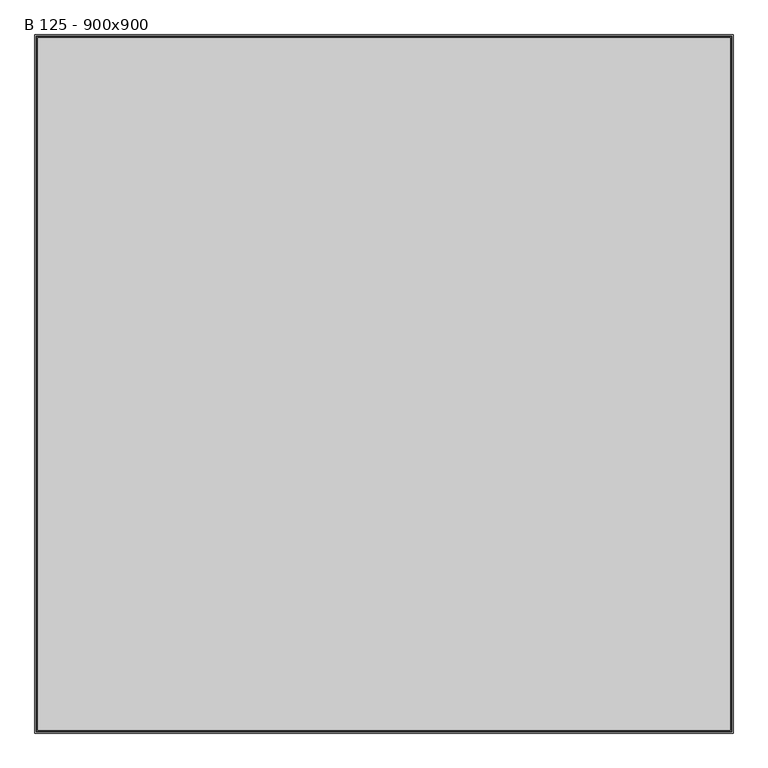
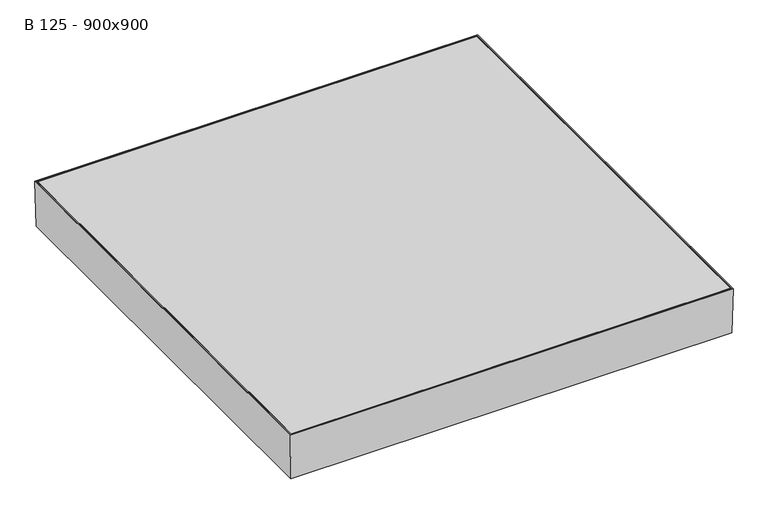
"""IFC4 building model written with IfcOpenShell, lengths in millimetres: proxy geometry, ME_ST_WPB_Access Cover UNIFACE DEEP 35 GS_ACO : B 125 - 900x900."""

import ifcopenshell
import ifcopenshell.guid

model = None  # the IFC model being written
_history = None  # IfcOwnerHistory: only IFC2X3 demands one
_inside = {}  # id of a spatial element -> (the spatial element, [elements in it])
_under = {}  # id of a project, library or spatial element -> (it, [spatial elements below it])
_declared = {}  # id of a project -> (the project, [libraries it declares])
_typed = {}  # id of a type object -> (the type object, [elements of that type])
_made_of = {}  # id of a material, layer set ... -> (it, [elements and type objects made of it])


def new_model(schema):
    """Start an empty IFC model of exactly this schema.

    Asked for "IFC4X3", IfcOpenShell would pick the latest addendum, in which some entities
    have other attributes; the version numbers below select the first issue.
    IFC2X3 requires an IfcOwnerHistory on every rooted entity: one is made here for all.
    """
    global model, _history
    if schema == "IFC4X3":
        model = ifcopenshell.file(schema_version=(4, 3, 0, 0))
    else:
        model = ifcopenshell.file(schema=schema)
    _inside.clear()
    _under.clear()
    _declared.clear()
    _typed.clear()
    _made_of.clear()
    _history = None
    if model.schema == "IFC2X3":
        org = make("IfcOrganization", Name="unknown")
        user = make(
            "IfcPersonAndOrganization",
            ThePerson=make("IfcPerson", FamilyName="unknown"),
            TheOrganization=org,
        )
        app = make(
            "IfcApplication",
            ApplicationDeveloper=org,
            Version="unknown",
            ApplicationFullName="unknown",
            ApplicationIdentifier="unknown",
        )
        _history = make(
            "IfcOwnerHistory",
            OwningUser=user,
            OwningApplication=app,
            ChangeAction="ADDED",
            CreationDate=0,
        )
    return model


def make(cls, **values):
    """One entity of the class cls with the attributes given. An attribute that is None is left unset."""
    return model.create_entity(
        cls, **{name: value for name, value in values.items() if value is not None}
    )


def rooted(cls, **values):
    """An entity with a GlobalId (a new one), such as an element, a storey or a relation."""
    return make(cls, GlobalId=ifcopenshell.guid.new(), OwnerHistory=_history, **values)


def si_unit(unit_type, name, prefix=None):
    """IfcSIUnit, for example si_unit("LENGTHUNIT", "METRE", prefix="MILLI")."""
    return make("IfcSIUnit", UnitType=unit_type, Prefix=prefix, Name=name)


def assignment(units):
    """IfcUnitAssignment: the units of a project."""
    return None if units is None else make("IfcUnitAssignment", Units=units)


def point(xyz):
    """IfcCartesianPoint."""
    return None if xyz is None else make("IfcCartesianPoint", Coordinates=xyz)


def direction(xyz):
    """IfcDirection."""
    return None if xyz is None else make("IfcDirection", DirectionRatios=xyz)


def frame(location, z_axis=None, x_axis=None):
    """IfcAxis2Placement3D, a coordinate frame: its origin and axes. An axis left out is left unset."""
    return make(
        "IfcAxis2Placement3D",
        Location=point(location),
        Axis=direction(z_axis),
        RefDirection=direction(x_axis),
    )


def origin():
    """The frame at (0, 0, 0) with its axes left unset."""
    return frame((0.0, 0.0, 0.0))


def place(relative_to, where):
    """IfcLocalPlacement: puts the frame where relative to a parent placement (None: the world)."""
    return make(
        "IfcLocalPlacement", PlacementRelTo=relative_to, RelativePlacement=where
    )


def context(
    kind, dimensions, precision=None, world=None, true_north=None, identifier=None
):
    """IfcGeometricRepresentationContext, for example the 3D "Model" context."""
    return make(
        "IfcGeometricRepresentationContext",
        ContextIdentifier=identifier,
        ContextType=kind,
        CoordinateSpaceDimension=dimensions,
        Precision=precision,
        WorldCoordinateSystem=world,
        TrueNorth=true_north,
    )


def project(units=None, contexts=None):
    """IfcProject with its units and contexts."""
    return rooted(
        "IfcProject",
        Name="project",
        RepresentationContexts=contexts,
        UnitsInContext=assignment(units),
    )


def spatial(cls, under=None, at=None, **own):
    """A site, building, storey or space (cls), placed at a placement, below another one or the project."""
    s = rooted(cls, ObjectPlacement=at, **own)
    if under is not None:
        _under.setdefault(under.id(), (under, []))[1].append(s)
    return s


def polyline(points):
    """IfcPolyline through the points."""
    return make("IfcPolyline", Points=[point(p) for p in points])


def outline(outer, holes=None, kind="AREA"):
    """IfcArbitraryClosedProfileDef: a profile drawn as a closed curve; with holes, ...WithVoids."""
    if holes is None:
        return make("IfcArbitraryClosedProfileDef", ProfileType=kind, OuterCurve=outer)
    return make(
        "IfcArbitraryProfileDefWithVoids",
        ProfileType=kind,
        OuterCurve=outer,
        InnerCurves=holes,
    )


def extrude(swept, where, along, depth):
    """IfcExtrudedAreaSolid: the profile swept, set in the frame where, extruded along a direction by depth."""
    return make(
        "IfcExtrudedAreaSolid",
        SweptArea=swept,
        Position=where,
        ExtrudedDirection=direction(along),
        Depth=depth,
    )


def faces_of(points, faces, orient=None, outer=None):
    """IfcFace entities. A face is a list of loops; a loop is a list of indices into points, from 0.

    orient and outer hold one flag for each loop. By default every Orientation is true, the
    first loop of a face is its IfcFaceOuterBound and the others are IfcFaceBound.
    """
    made = []
    for i, loops in enumerate(faces):
        bounds = []
        for j, loop in enumerate(loops):
            is_outer = j == 0 if outer is None else outer[i][j]
            bounds.append(
                make(
                    "IfcFaceOuterBound" if is_outer else "IfcFaceBound",
                    Bound=make("IfcPolyLoop", Polygon=[points[k] for k in loop]),
                    Orientation=True if orient is None else orient[i][j],
                )
            )
        made.append(make("IfcFace", Bounds=bounds))
    return made


def faceted_brep(points, faces, orient=None, outer=None, voids=None):
    """IfcFacetedBrep: a solid bounded by flat faces; with voids (closed shells), ...WithVoids."""
    shared = [point(p) for p in points]
    hull = make("IfcClosedShell", CfsFaces=faces_of(shared, faces, orient, outer))
    if voids is None:
        return make("IfcFacetedBrep", Outer=hull)
    return make(
        "IfcFacetedBrepWithVoids",
        Outer=hull,
        Voids=[
            make(cls, CfsFaces=faces_of(shared, fs, o, b)) for cls, fs, o, b in voids
        ],
    )


def shape(context_of_items, identifier, shape_type, items):
    """IfcShapeRepresentation: the items that make up one representation, for example the "Body"."""
    return make(
        "IfcShapeRepresentation",
        ContextOfItems=context_of_items,
        RepresentationIdentifier=identifier,
        RepresentationType=shape_type,
        Items=items,
    )


def source(mapping_origin, context_of_items, identifier, shape_type, items):
    """IfcRepresentationMap: a shape defined once, which mapped items show again and again."""
    return make(
        "IfcRepresentationMap",
        MappingOrigin=mapping_origin,
        MappedRepresentation=shape(context_of_items, identifier, shape_type, items),
    )


def transform(
    local_origin,
    x_axis=None,
    y_axis=None,
    z_axis=None,
    scale=None,
    scale2=None,
    scale3=None,
    uniform=True,
):
    """IfcCartesianTransformationOperator3D, or its non-uniform kind. x_axis, y_axis, z_axis: its Axis1, 2, 3."""
    if uniform:
        return make(
            "IfcCartesianTransformationOperator3D",
            Axis1=direction(x_axis),
            Axis2=direction(y_axis),
            LocalOrigin=point(local_origin),
            Scale=scale,
            Axis3=direction(z_axis),
        )
    return make(
        "IfcCartesianTransformationOperator3DnonUniform",
        Axis1=direction(x_axis),
        Axis2=direction(y_axis),
        LocalOrigin=point(local_origin),
        Scale=scale,
        Axis3=direction(z_axis),
        Scale2=scale2,
        Scale3=scale3,
    )


def mapped(mapping_source, mapping_target):
    """IfcMappedItem: shows the shape of a source again, moved by a transform."""
    return make(
        "IfcMappedItem", MappingSource=mapping_source, MappingTarget=mapping_target
    )


def made_of(thing, what):
    """Note that an element or type object is made of a material, layer set ...; save() writes the relation."""
    if what is not None:
        _made_of.setdefault(what.id(), (what, []))[1].append(thing)
    return thing


def element(
    cls,
    number,
    at=None,
    inside=None,
    cuts=None,
    type_object=None,
    material=None,
    context=None,
    identifier="Body",
    shape_type=None,
    held_by="IfcProductDefinitionShape",
    body=None,
    shapes=None,
    **own,
):
    """One element of the class cls, such as IfcWall. Its Tag is "e" and its number.

    at: its placement. inside: the storey or other place that contains it. cuts: it is an
    opening in that element (IfcRelVoidsElement). A single representation is given by context,
    identifier, shape_type and body (its items); several are given by shapes. held_by: the class
    of the entity that holds the representations. save() writes the other relations.
    """
    e = rooted(cls, Tag="e%d" % number, ObjectPlacement=at, **own)
    if body is not None:
        shapes = [shape(context, identifier, shape_type, body)]
    if shapes is not None:
        e.Representation = make(held_by, Representations=shapes)
    if inside is not None:
        _inside.setdefault(inside.id(), (inside, []))[1].append(e)
    if cuts is not None:
        rooted(
            "IfcRelVoidsElement", RelatingBuildingElement=cuts, RelatedOpeningElement=e
        )
    if type_object is not None:
        _typed.setdefault(type_object.id(), (type_object, []))[1].append(e)
    return made_of(e, material)


def aggregate(whole, parts):
    """IfcRelAggregates: a whole, such as a stair, and the parts it consists of."""
    return rooted("IfcRelAggregates", RelatingObject=whole, RelatedObjects=parts)


def save(model, path):
    """Write the relations noted so far, then the file.

    IfcRelAggregates (storeys below a building ...), IfcRelContainedInSpatialStructure (elements
    in a storey), IfcRelDefinesByType, IfcRelAssociatesMaterial and IfcRelDeclares: one each for
    every whole, place, type object, material and project.
    """
    for whole, parts in _under.values():
        aggregate(whole, parts)
    for where, things in _inside.values():
        rooted(
            "IfcRelContainedInSpatialStructure",
            RelatedElements=things,
            RelatingStructure=where,
        )
    for kind, things in _typed.values():
        rooted("IfcRelDefinesByType", RelatedObjects=things, RelatingType=kind)
    for what, things in _made_of.values():
        rooted("IfcRelAssociatesMaterial", RelatedObjects=things, RelatingMaterial=what)
    for by, libraries in _declared.values():
        rooted("IfcRelDeclares", RelatingContext=by, RelatedDefinitions=libraries)
    model.write(path)


def b_125_900x900_83342fff(model_context):
    return source(origin(), model_context, "Body", "SolidModel", [
        extrude(outline(polyline([(501.0, 501.0), (501.0, -501.0), (-501.0, -501.0), (-501.0, 501.0), (501.0, 501.0)])), frame((0.0, 0.0, -5.0), z_axis=(0.0, 0.0, 1.0), x_axis=(1.0, 0.0, 0.0)), (0.0, 0.0, 1.0), 5.0),
        faceted_brep([(498.2666483, 498.2666483, -92.9987834), (-498.2666483, 498.2666483, -92.9987834), (-498.2666483, -498.2666483, -92.9987834), (498.2666483, -498.2666483, -92.9987834), (500.2087117, 500.2087117, -95.0), (500.2087117, -500.2087117, -95.0), (-500.2087117, -500.2087117, -95.0), (-500.2087117, 500.2087117, -95.0), (503.0, 503.0, 0.0), (503.0, -503.0, 0.0), (-503.0, -503.0, 0.0), (-503.0, 503.0, 0.0), (500.9991369, -500.9991369, 0.0), (500.9991369, 500.9991369, 0.0), (-500.9991369, -500.9991369, 0.0), (-500.9991369, 500.9991369, 0.0)], [[[0, 1, 2, 3]], [[4, 5, 6, 7]], [[4, 8, 9, 5]], [[5, 9, 10, 6]], [[6, 10, 11, 7]], [[8, 4, 7, 11]], [[0, 3, 12, 13]], [[3, 2, 14, 12]], [[2, 1, 15, 14]], [[1, 0, 13, 15]], [[9, 8, 11, 10], [13, 12, 14, 15]]]),
        faceted_brep([(502.9224838, 502.9224838, -107.0), (505.0, 505.0, 0.0), (505.0, -505.0, 0.0), (502.9224838, -502.9224838, -107.0), (-505.0, -505.0, 0.0), (-502.9224838, -502.9224838, -107.0), (-505.0, 505.0, 0.0), (-502.9224838, 502.9224838, -107.0), (450.0, 450.0, -107.0), (-450.0, 450.0, -107.0), (-450.0, -450.0, -107.0), (450.0, -450.0, -107.0), (500.960939, 500.960939, -105.0), (-500.960939, 500.960939, -105.0), (-500.960939, -500.960939, -105.0), (500.960939, -500.960939, -105.0), (452.0, -452.0, -105.0), (-452.0, -452.0, -105.0), (-452.0, 452.0, -105.0), (452.0, 452.0, -105.0), (502.9996231, -502.9996231, 0.0), (-502.9996231, -502.9996231, 0.0), (-502.9996231, 502.9996231, 0.0), (502.9996231, 502.9996231, 0.0), (450.0, 450.0, -95.0), (450.0, -450.0, -95.0), (452.0, 452.0, -95.0), (452.0, -452.0, -95.0), (-450.0, -450.0, -95.0), (-452.0, -452.0, -95.0), (-450.0, 450.0, -95.0), (-452.0, 452.0, -95.0)], [[[0, 1, 2, 3]], [[3, 2, 4, 5]], [[5, 4, 6, 7]], [[3, 5, 7, 0], [8, 9, 10, 11]], [[12, 13, 14, 15], [16, 17, 18, 19]], [[1, 6, 4, 2], [20, 21, 22, 23]], [[7, 6, 1, 0]], [[24, 8, 11, 25]], [[19, 26, 27, 16]], [[25, 11, 10, 28]], [[16, 27, 29, 17]], [[28, 10, 9, 30]], [[17, 29, 31, 18]], [[30, 9, 8, 24]], [[26, 31, 29, 27], [25, 28, 30, 24]], [[18, 31, 26, 19]], [[23, 12, 15, 20]], [[20, 15, 14, 21]], [[21, 14, 13, 22]], [[22, 13, 12, 23]]]),
    ])


if __name__ == "__main__":
    model = new_model("IFC4")
    model_context = context("Model", 3, world=origin())
    ifc_project = project(units=[si_unit("LENGTHUNIT", "METRE", prefix="MILLI")], contexts=[model_context])
    site = spatial("IfcSite", under=ifc_project)
    building = spatial("IfcBuilding", under=site)
    placement = place(None, origin())
    b_125_900x900_shape = b_125_900x900_83342fff(model_context)
    element("IfcBuildingElementProxy", 1, Name="ME_ST_WPB_Access Cover UNIFACE DEEP 35 GS_ACO : B 125 - 900x900", ObjectType="ME_ST_WPB_Access Cover UNIFACE DEEP 35 GS_ACO : B 125 - 900x900", at=placement, inside=building, context=model_context, shape_type="MappedRepresentation", body=[
        mapped(b_125_900x900_shape, transform((0.0, 0.0, 0.0), x_axis=(1.0, 0.0, 0.0), y_axis=(0.0, 1.0, 0.0), z_axis=(0.0, 0.0, 1.0))),
    ])
    save(model, "model.ifc")
